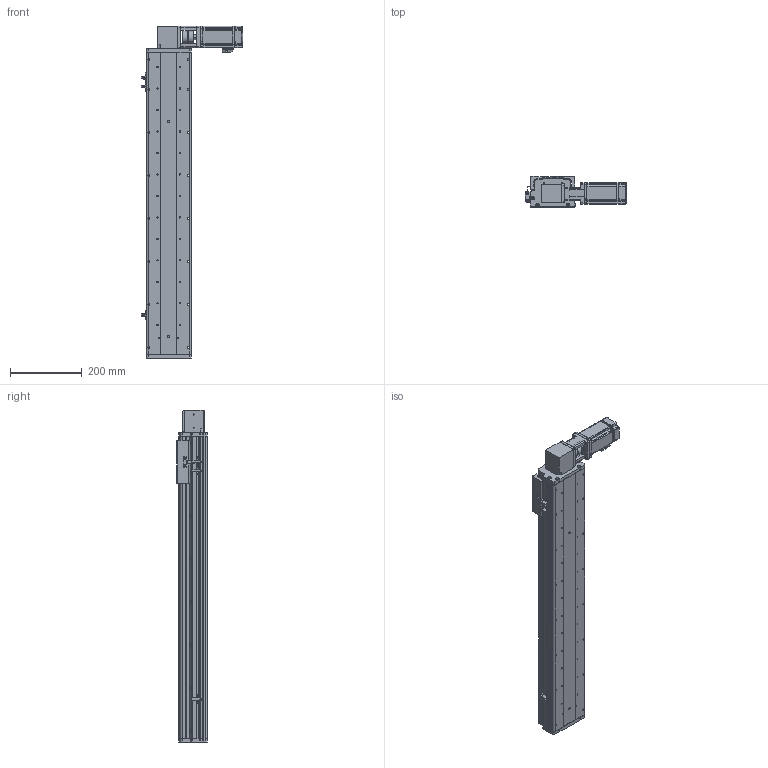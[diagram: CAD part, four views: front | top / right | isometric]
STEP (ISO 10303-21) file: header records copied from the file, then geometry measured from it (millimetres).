
FILE_DESCRIPTION (( 'STEP AP214' ), '1' );
FILE_NAME ('KSD125B-S650-MRT-CM.STEP', '2017-10-21T06:55:49', ( '微软用户' ), ( '微软中国' ), 'SwSTEP 2.0', 'SolidWorks 2014', '' );
FILE_SCHEMA (( 'AUTOMOTIVE_DESIGN' ));
Length unit declared in the file: millimetre
Products named in the file (16): 前端板-125宽模组同步带; 125模组同步带-尾端板1; KSD125模组同步带-滑动座1; KSD125B-S650-MRT-CM; 100宽马达安装板同步带左; KSD125模组650行程同步带-防尘盖; 125模组650行程同步带-底板; MHMD042G1CA_2_03; KSD125模组同步带-防撞垫2; CS-34X32-10X14; 100遵鎮湛假蚾啣1 ; 覜茼え68遵圉猾敕; U倰嫖萇假蚾璃; U倰嫖萇EEㄜSX672; KSD125模组同步带-防撞垫1; 100宽安装板同步带带电机座400W,86
Assembly tree (19 placements, depth 2):
  KSD125B-S650-MRT-CM
    KSD125模组同步带-滑动座1
    125模组同步带-尾端板1
    前端板-125宽模组同步带
    100宽安装板同步带带电机座400W,86
    KSD125模组同步带-防撞垫1
    U倰嫖萇EEㄜSX672  x3
    U倰嫖萇假蚾璃  x3
    覜茼え68遵圉猾敕
    100遵鎮湛假蚾啣1 
    CS-34X32-10X14
    KSD125模组同步带-防撞垫2
    MHMD042G1CA_2_03
    125模组650行程同步带-底板
    KSD125模组650行程同步带-防尘盖
    100宽马达安装板同步带左
Bounding box: 282.7 x 86 x 927 mm (x, y, z)
Volume: 2973581.6 mm3; surface area: 994296.3 mm2
Topology: 18 solids, 21 shells, 1670 faces, 4786 edges, 3156 vertices
Faces by surface type: cylinder 865, plane 702, cone 81, bspline 22
Entity records: 58542 total; most frequent: CARTESIAN_POINT 11876, DIRECTION 8565, ORIENTED_EDGE 8092, EDGE_CURVE 4124, AXIS2_PLACEMENT_3D 3177, VERTEX_POINT 2748, LINE 2211, VECTOR 2211
